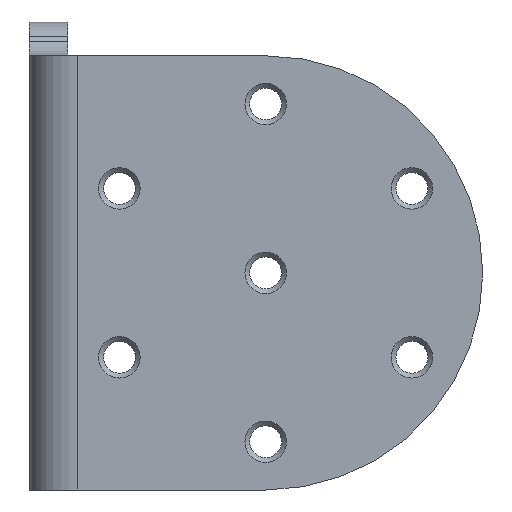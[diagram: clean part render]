
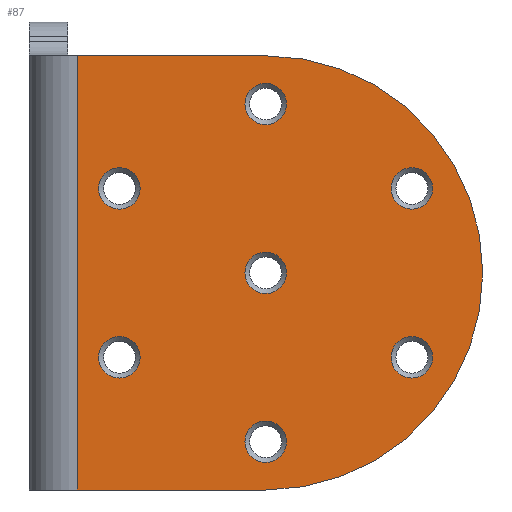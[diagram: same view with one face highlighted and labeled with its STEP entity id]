
A CAD part, left-side view. The second image highlights one B-rep face of the part: STEP entity #87.
In plain terms, the highlighted planar face has unit normal (-1, 0, 0).
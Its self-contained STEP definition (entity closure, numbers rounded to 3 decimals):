
#87=ADVANCED_FACE('',(#239,#240,#241,#242,#243,#244,#245,#246),#131,.T.);
#131=PLANE('',#838);
#162=LINE('',#1256,#201);
#163=LINE('',#1259,#202);
#164=LINE('',#1261,#203);
#201=VECTOR('',#1003,1.);
#202=VECTOR('',#1004,1.);
#203=VECTOR('',#1005,1.);
#239=FACE_BOUND('',#316,.T.);
#240=FACE_BOUND('',#317,.T.);
#241=FACE_BOUND('',#318,.T.);
#242=FACE_BOUND('',#319,.T.);
#243=FACE_BOUND('',#320,.T.);
#244=FACE_BOUND('',#321,.T.);
#245=FACE_BOUND('',#322,.T.);
#246=FACE_BOUND('',#323,.T.);
#316=EDGE_LOOP('',(#443));
#317=EDGE_LOOP('',(#444));
#318=EDGE_LOOP('',(#445));
#319=EDGE_LOOP('',(#446));
#320=EDGE_LOOP('',(#447));
#321=EDGE_LOOP('',(#448));
#322=EDGE_LOOP('',(#449));
#323=EDGE_LOOP('',(#450,#451,#452,#453));
#443=ORIENTED_EDGE('',*,*,#701,.T.);
#444=ORIENTED_EDGE('',*,*,#702,.T.);
#445=ORIENTED_EDGE('',*,*,#703,.T.);
#446=ORIENTED_EDGE('',*,*,#704,.T.);
#447=ORIENTED_EDGE('',*,*,#705,.T.);
#448=ORIENTED_EDGE('',*,*,#706,.T.);
#449=ORIENTED_EDGE('',*,*,#707,.T.);
#450=ORIENTED_EDGE('',*,*,#708,.F.);
#451=ORIENTED_EDGE('',*,*,#709,.T.);
#452=ORIENTED_EDGE('',*,*,#710,.F.);
#453=ORIENTED_EDGE('',*,*,#711,.F.);
#625=VERTEX_POINT('',#1243);
#626=VERTEX_POINT('',#1245);
#627=VERTEX_POINT('',#1247);
#628=VERTEX_POINT('',#1249);
#629=VERTEX_POINT('',#1251);
#630=VERTEX_POINT('',#1253);
#631=VERTEX_POINT('',#1255);
#632=VERTEX_POINT('',#1257);
#633=VERTEX_POINT('',#1258);
#634=VERTEX_POINT('',#1260);
#635=VERTEX_POINT('',#1262);
#701=EDGE_CURVE('',#625,#625,#771,.T.);
#702=EDGE_CURVE('',#626,#626,#772,.T.);
#703=EDGE_CURVE('',#627,#627,#773,.T.);
#704=EDGE_CURVE('',#628,#628,#774,.T.);
#705=EDGE_CURVE('',#629,#629,#775,.T.);
#706=EDGE_CURVE('',#630,#630,#776,.T.);
#707=EDGE_CURVE('',#631,#631,#777,.T.);
#708=EDGE_CURVE('',#632,#633,#162,.T.);
#709=EDGE_CURVE('',#632,#634,#163,.T.);
#710=EDGE_CURVE('',#635,#634,#164,.T.);
#711=EDGE_CURVE('',#633,#635,#778,.T.);
#771=CIRCLE('',#830,2.15);
#772=CIRCLE('',#831,2.15);
#773=CIRCLE('',#832,2.15);
#774=CIRCLE('',#833,2.15);
#775=CIRCLE('',#834,2.15);
#776=CIRCLE('',#835,2.15);
#777=CIRCLE('',#836,2.15);
#778=CIRCLE('',#837,22.5);
#830=AXIS2_PLACEMENT_3D('',#1242,#989,#990);
#831=AXIS2_PLACEMENT_3D('',#1244,#991,#992);
#832=AXIS2_PLACEMENT_3D('',#1246,#993,#994);
#833=AXIS2_PLACEMENT_3D('',#1248,#995,#996);
#834=AXIS2_PLACEMENT_3D('',#1250,#997,#998);
#835=AXIS2_PLACEMENT_3D('',#1252,#999,#1000);
#836=AXIS2_PLACEMENT_3D('',#1254,#1001,#1002);
#837=AXIS2_PLACEMENT_3D('',#1263,#1006,#1007);
#838=AXIS2_PLACEMENT_3D('',#1264,#1008,#1009);
#989=DIRECTION('',(1.,0.,0.));
#990=DIRECTION('',(0.,-1.,0.));
#991=DIRECTION('',(1.,0.,0.));
#992=DIRECTION('',(0.,-1.,0.));
#993=DIRECTION('',(1.,0.,0.));
#994=DIRECTION('',(0.,-1.,0.));
#995=DIRECTION('',(1.,0.,0.));
#996=DIRECTION('',(0.,-1.,0.));
#997=DIRECTION('',(1.,0.,0.));
#998=DIRECTION('',(0.,-1.,0.));
#999=DIRECTION('',(1.,0.,0.));
#1000=DIRECTION('',(0.,-1.,0.));
#1001=DIRECTION('',(1.,0.,0.));
#1002=DIRECTION('',(0.,-1.,0.));
#1003=DIRECTION('',(0.,-1.,0.));
#1004=DIRECTION('',(0.,0.,-1.));
#1005=DIRECTION('',(0.,1.,0.));
#1006=DIRECTION('',(1.,0.,0.));
#1007=DIRECTION('',(0.,0.,1.));
#1008=DIRECTION('',(-1.,0.,0.));
#1009=DIRECTION('',(0.,-1.,0.));
#1242=CARTESIAN_POINT('',(-61.,-20.5,0.));
#1243=CARTESIAN_POINT('',(-61.,-22.65,0.));
#1244=CARTESIAN_POINT('',(-61.,-20.5,17.5));
#1245=CARTESIAN_POINT('',(-61.,-22.65,17.5));
#1246=CARTESIAN_POINT('',(-61.,-35.655,8.75));
#1247=CARTESIAN_POINT('',(-61.,-37.805,8.75));
#1248=CARTESIAN_POINT('',(-61.,-35.655,-8.75));
#1249=CARTESIAN_POINT('',(-61.,-37.805,-8.75));
#1250=CARTESIAN_POINT('',(-61.,-20.5,-17.5));
#1251=CARTESIAN_POINT('',(-61.,-22.65,-17.5));
#1252=CARTESIAN_POINT('',(-61.,-5.345,-8.75));
#1253=CARTESIAN_POINT('',(-61.,-7.495,-8.75));
#1254=CARTESIAN_POINT('',(-61.,-5.345,8.75));
#1255=CARTESIAN_POINT('',(-61.,-7.495,8.75));
#1256=CARTESIAN_POINT('',(-61.,9.5,22.5));
#1257=CARTESIAN_POINT('',(-61.,-1.,22.5));
#1258=CARTESIAN_POINT('',(-61.,-20.5,22.5));
#1259=CARTESIAN_POINT('',(-61.,-1.,27.));
#1260=CARTESIAN_POINT('',(-61.,-1.,-22.5));
#1261=CARTESIAN_POINT('',(-61.,-20.5,-22.5));
#1262=CARTESIAN_POINT('',(-61.,-20.5,-22.5));
#1263=CARTESIAN_POINT('',(-61.,-20.5,0.));
#1264=CARTESIAN_POINT('',(-61.,-43.,27.));
